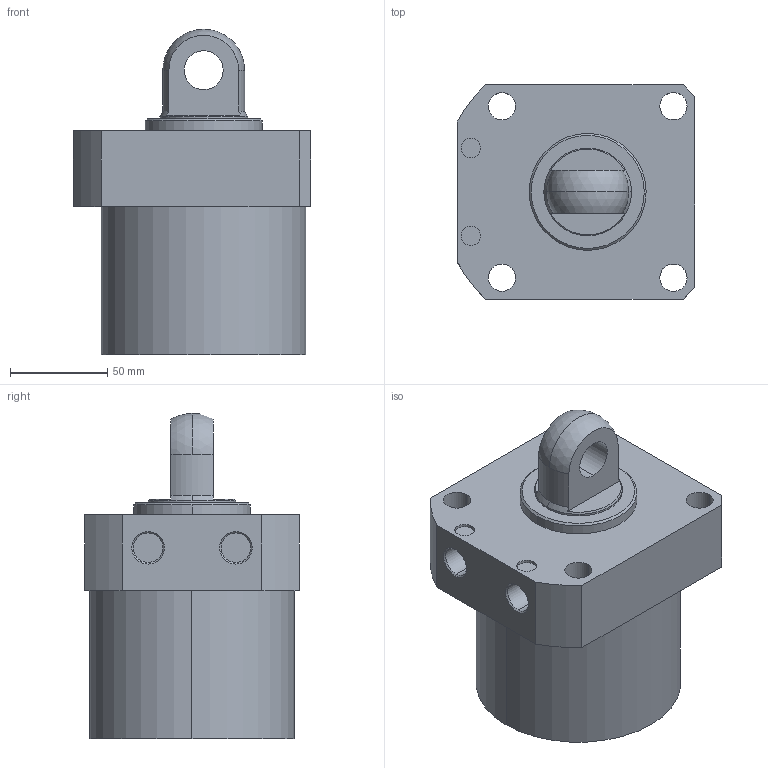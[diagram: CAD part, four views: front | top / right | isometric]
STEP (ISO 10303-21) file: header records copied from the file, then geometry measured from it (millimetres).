
FILE_DESCRIPTION (( 'STEP AP203' ), '1' );
FILE_NAME ('CLLR-105CP-055.STEP', '2019-12-19T02:06:52', ( '' ), ( '' ), 'SwSTEP 2.0', 'SolidWorks 2015', '' );
FILE_SCHEMA (( 'CONFIG_CONTROL_DESIGN' ));
Length unit declared in the file: millimetre
Products named in the file (1): CLLR-105CP-055
Bounding box: 122 x 110 x 167 mm (x, y, z)
Volume: 1184286.9 mm3; surface area: 82748.9 mm2
Topology: 1 solids, 1 shells, 57 faces, 135 edges, 87 vertices
Faces by surface type: cylinder 29, plane 18, cone 8, sphere 2
Entity records: 1770 total; most frequent: DIRECTION 319, CARTESIAN_POINT 292, ORIENTED_EDGE 270, EDGE_CURVE 135, AXIS2_PLACEMENT_3D 130, VERTEX_POINT 87, EDGE_LOOP 74, CIRCLE 72
